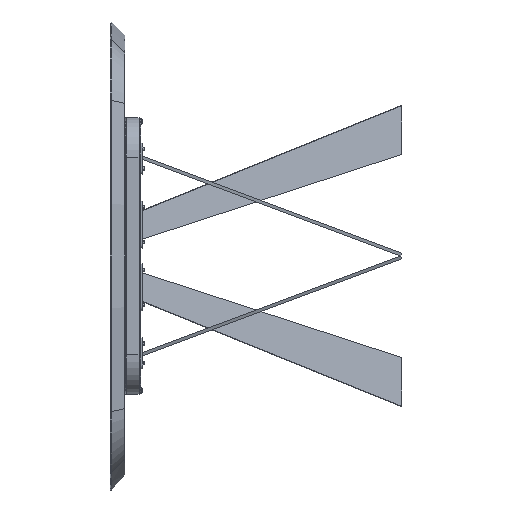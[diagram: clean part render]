
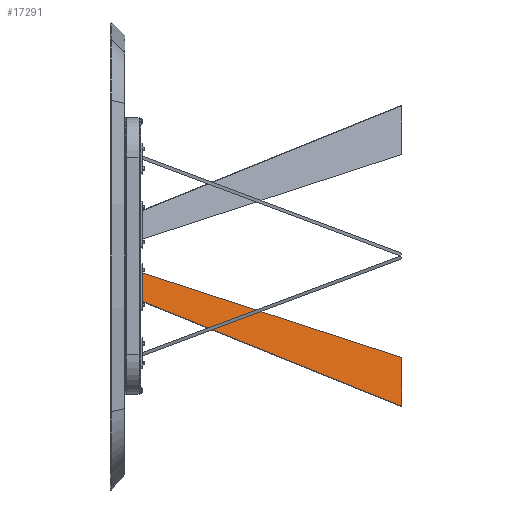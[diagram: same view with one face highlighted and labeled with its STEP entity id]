
A CAD part, left-side view. The second image highlights one B-rep face of the part: STEP entity #17291.
In plain terms, the highlighted planar face has unit normal (-0.937, -0.35, 0) as drawn and (-1, 0, 0) by its records, which use the part's own axes.
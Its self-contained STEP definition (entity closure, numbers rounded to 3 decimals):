
#61 = DIRECTION ( 'NONE',  ( 0., 0.292, 0.956 ) ) ;
#555 = ORIENTED_EDGE ( 'NONE', *, *, #22090, .F. ) ;
#835 = CARTESIAN_POINT ( 'NONE',  ( -4., 830.546, 119.538 ) ) ;
#1813 = ORIENTED_EDGE ( 'NONE', *, *, #3973, .F. ) ;
#2066 = CARTESIAN_POINT ( 'NONE',  ( -4., 794., 0. ) ) ;
#2368 = CARTESIAN_POINT ( 'NONE',  ( -4., 51.777, 0. ) ) ;
#2609 = FACE_OUTER_BOUND ( 'NONE', #15671, .T. ) ;
#3193 = VERTEX_POINT ( 'NONE', #2368 ) ;
#3374 = LINE ( 'NONE', #2066, #7249 ) ;
#3568 = ORIENTED_EDGE ( 'NONE', *, *, #19878, .T. ) ;
#3661 = VERTEX_POINT ( 'NONE', #22040 ) ;
#3824 = CARTESIAN_POINT ( 'NONE',  ( -4., 47.351, -14.477 ) ) ;
#3973 = EDGE_CURVE ( 'NONE', #3661, #13278, #3374, .T. ) ;
#4560 = VERTEX_POINT ( 'NONE', #9710 ) ;
#5070 = DIRECTION ( 'NONE',  ( 0., 1., 0. ) ) ;
#6941 = EDGE_CURVE ( 'NONE', #13278, #4560, #19304, .T. ) ;
#7249 = VECTOR ( 'NONE', #9261, 1000. ) ;
#9261 = DIRECTION ( 'NONE',  ( 0., 0.292, 0.956 ) ) ;
#9710 = CARTESIAN_POINT ( 'NONE',  ( -4., 73.118, 69.801 ) ) ;
#9781 = VECTOR ( 'NONE', #61, 1000. ) ;
#9801 = PLANE ( 'NONE',  #12081 ) ;
#10108 = DIRECTION ( 'NONE',  ( 0., -0.998, -0.066 ) ) ;
#10446 = ORIENTED_EDGE ( 'NONE', *, *, #6941, .F. ) ;
#12081 = AXIS2_PLACEMENT_3D ( 'NONE', #16998, #15220, #21127 ) ;
#12582 = VECTOR ( 'NONE', #10108, 1000. ) ;
#13278 = VERTEX_POINT ( 'NONE', #835 ) ;
#14559 = LINE ( 'NONE', #3824, #9781 ) ;
#15220 = DIRECTION ( 'NONE',  ( 1., 0., 0. ) ) ;
#15671 = EDGE_LOOP ( 'NONE', ( #555, #3568, #10446, #1813 ) ) ;
#15930 = CARTESIAN_POINT ( 'NONE',  ( -4., 0., 0. ) ) ;
#16162 = LINE ( 'NONE', #15930, #22671 ) ;
#16998 = CARTESIAN_POINT ( 'NONE',  ( -4., 0., 0. ) ) ;
#17197 = CARTESIAN_POINT ( 'NONE',  ( -4., 830.546, 119.538 ) ) ;
#17291 = ADVANCED_FACE ( 'NONE', ( #2609 ), #9801, .F. ) ;
#19304 = LINE ( 'NONE', #17197, #12582 ) ;
#19878 = EDGE_CURVE ( 'NONE', #3193, #4560, #14559, .T. ) ;
#21127 = DIRECTION ( 'NONE',  ( 0., 0., -1. ) ) ;
#22040 = CARTESIAN_POINT ( 'NONE',  ( -4., 794., 0. ) ) ;
#22090 = EDGE_CURVE ( 'NONE', #3193, #3661, #16162, .T. ) ;
#22671 = VECTOR ( 'NONE', #5070, 1000. ) ;
